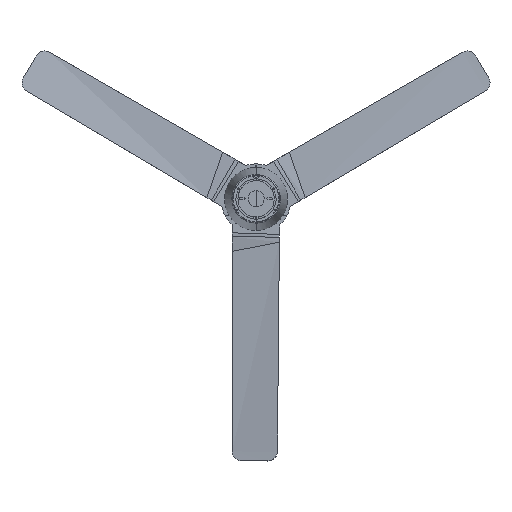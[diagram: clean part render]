
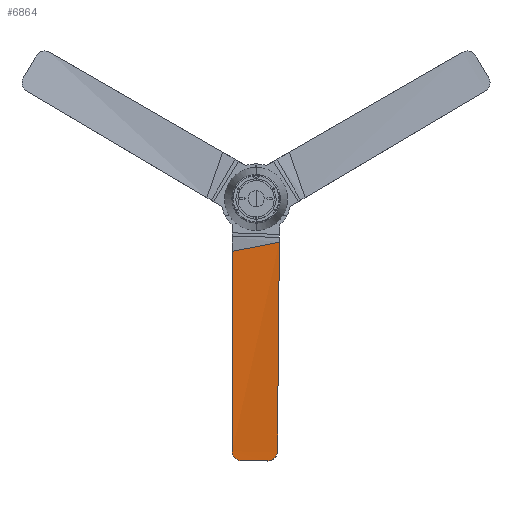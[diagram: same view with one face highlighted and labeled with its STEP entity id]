
A CAD part, top view. The second image highlights one B-rep face of the part: STEP entity #6864.
In plain terms, the highlighted free-form (B-spline) face has degree [3, 1] with [6, 2] control points.
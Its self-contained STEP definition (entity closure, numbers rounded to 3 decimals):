
#239=B_SPLINE_SURFACE_WITH_KNOTS('',3,1,((#25375,#25376),(#25377,#25378),
(#25379,#25380),(#25381,#25382),(#25383,#25384),(#25385,#25386)),
 .UNSPECIFIED.,.F.,.F.,.F.,(4,1,1,4),(2,2),(0.,184.784,369.567,
542.804),(0.,119.831),.UNSPECIFIED.);
#6864=ADVANCED_FACE('',(#7750),#239,.T.);
#7750=FACE_OUTER_BOUND('',#8576,.T.);
#8576=EDGE_LOOP('',(#9664,#9665,#9666,#9667,#9668,#9669));
#9664=ORIENTED_EDGE('',*,*,#14078,.T.);
#9665=ORIENTED_EDGE('',*,*,#14097,.T.);
#9666=ORIENTED_EDGE('',*,*,#14079,.T.);
#9667=ORIENTED_EDGE('',*,*,#14085,.T.);
#9668=ORIENTED_EDGE('',*,*,#14080,.T.);
#9669=ORIENTED_EDGE('',*,*,#14096,.T.);
#14078=EDGE_CURVE('',#19340,#19341,#16296,.T.);
#14079=EDGE_CURVE('',#19342,#19343,#16297,.T.);
#14080=EDGE_CURVE('',#19344,#19345,#16298,.T.);
#14085=EDGE_CURVE('',#19343,#19344,#16303,.T.);
#14096=EDGE_CURVE('',#19345,#19340,#16314,.T.);
#14097=EDGE_CURVE('',#19341,#19342,#16315,.T.);
#16296=B_SPLINE_CURVE_WITH_KNOTS('',1,(#25767,#25768),.UNSPECIFIED.,.F.,
 .F.,(2,2),(0.,119.505),.UNSPECIFIED.);
#16297=B_SPLINE_CURVE_WITH_KNOTS('',3,(#25769,#25770,#25771,#25772,#25773,
#25774,#25775,#25776,#25777,#25778),.UNSPECIFIED.,.F.,.F.,(4,2,2,2,4),(0.,
9.898,19.216,28.878,38.429),
 .UNSPECIFIED.);
#16298=B_SPLINE_CURVE_WITH_KNOTS('',3,(#25779,#25780,#25781,#25782,#25783,
#25784,#25785,#25786,#25787,#25788),.UNSPECIFIED.,.F.,.F.,(4,2,2,2,4),(0.,
9.02,18.45,27.437,36.898),
 .UNSPECIFIED.);
#16303=B_SPLINE_CURVE_WITH_KNOTS('',3,(#25801,#25802,#25803,#25804,#25805,
#25806),.UNSPECIFIED.,.F.,.F.,(4,2,4),(-63.426,-31.713,
0.),.UNSPECIFIED.);
#16314=B_SPLINE_CURVE_WITH_KNOTS('',3,(#25851,#25852,#25853,#25854,#25855,
#25856),.UNSPECIFIED.,.F.,.F.,(4,2,4),(-520.938,-260.467,
0.),.UNSPECIFIED.);
#16315=B_SPLINE_CURVE_WITH_KNOTS('',3,(#25857,#25858,#25859,#25860,#25861,
#25862,#25863,#25864,#25865,#25866,#25867,#25868,#25869,#25870,#25871,#25872,
#25873,#25874,#25875),.UNSPECIFIED.,.F.,.F.,(4,3,3,3,3,3,4),(-496.831,
-423.855,-344.474,-248.417,-162.294,
-74.188,0.),.UNSPECIFIED.);
#19340=VERTEX_POINT('',#25704);
#19341=VERTEX_POINT('',#25705);
#19342=VERTEX_POINT('',#25706);
#19343=VERTEX_POINT('',#25707);
#19344=VERTEX_POINT('',#25708);
#19345=VERTEX_POINT('',#25709);
#25375=CARTESIAN_POINT('',(9450.427,-2188.119,60.021));
#25376=CARTESIAN_POINT('',(9567.971,-2165.439,65.367));
#25377=CARTESIAN_POINT('',(9450.427,-2247.102,55.29));
#25378=CARTESIAN_POINT('',(9567.971,-2227.016,64.498));
#25379=CARTESIAN_POINT('',(9450.427,-2365.282,48.277));
#25380=CARTESIAN_POINT('',(9567.971,-2350.193,63.552));
#25381=CARTESIAN_POINT('',(9450.427,-2539.166,45.194));
#25382=CARTESIAN_POINT('',(9567.971,-2531.134,64.488));
#25383=CARTESIAN_POINT('',(9450.427,-2653.847,47.776));
#25384=CARTESIAN_POINT('',(9567.971,-2650.465,66.592));
#25385=CARTESIAN_POINT('',(9450.427,-2709.29,50.105));
#25386=CARTESIAN_POINT('',(9567.971,-2708.196,67.958));
#25704=CARTESIAN_POINT('',(9567.971,-2165.439,65.367));
#25705=CARTESIAN_POINT('',(9450.747,-2188.057,60.036));
#25706=CARTESIAN_POINT('',(9450.693,-2684.48,49.176));
#25707=CARTESIAN_POINT('',(9475.494,-2708.195,53.879));
#25708=CARTESIAN_POINT('',(9538.195,-2708.465,63.435));
#25709=CARTESIAN_POINT('',(9563.031,-2686.317,66.691));
#25767=CARTESIAN_POINT('',(9567.971,-2165.439,65.367));
#25768=CARTESIAN_POINT('',(9450.747,-2188.057,60.036));
#25769=CARTESIAN_POINT('',(9450.693,-2684.48,49.176));
#25770=CARTESIAN_POINT('',(9450.866,-2687.762,49.322));
#25771=CARTESIAN_POINT('',(9451.669,-2690.975,49.567));
#25772=CARTESIAN_POINT('',(9454.369,-2696.728,50.203));
#25773=CARTESIAN_POINT('',(9456.176,-2699.247,50.579));
#25774=CARTESIAN_POINT('',(9460.688,-2703.57,51.44));
#25775=CARTESIAN_POINT('',(9463.383,-2705.303,51.92));
#25776=CARTESIAN_POINT('',(9469.247,-2707.629,52.906));
#25777=CARTESIAN_POINT('',(9472.356,-2708.214,53.402));
#25778=CARTESIAN_POINT('',(9475.494,-2708.195,53.879));
#25779=CARTESIAN_POINT('',(9538.195,-2708.465,63.435));
#25780=CARTESIAN_POINT('',(9541.158,-2708.515,63.887));
#25781=CARTESIAN_POINT('',(9544.107,-2708.02,64.322));
#25782=CARTESIAN_POINT('',(9549.818,-2705.938,65.136));
#25783=CARTESIAN_POINT('',(9552.511,-2704.323,65.505));
#25784=CARTESIAN_POINT('',(9557.055,-2700.265,66.098));
#25785=CARTESIAN_POINT('',(9558.902,-2697.897,66.324));
#25786=CARTESIAN_POINT('',(9561.753,-2692.477,66.634));
#25787=CARTESIAN_POINT('',(9562.683,-2689.443,66.708));
#25788=CARTESIAN_POINT('',(9563.031,-2686.317,66.691));
#25801=CARTESIAN_POINT('',(9475.494,-2708.195,53.879));
#25802=CARTESIAN_POINT('',(9485.944,-2708.24,55.473));
#25803=CARTESIAN_POINT('',(9496.394,-2708.285,57.067));
#25804=CARTESIAN_POINT('',(9517.294,-2708.375,60.252));
#25805=CARTESIAN_POINT('',(9527.745,-2708.42,61.844));
#25806=CARTESIAN_POINT('',(9538.195,-2708.465,63.435));
#25851=CARTESIAN_POINT('',(9563.031,-2686.317,66.691));
#25852=CARTESIAN_POINT('',(9563.854,-2599.52,64.845));
#25853=CARTESIAN_POINT('',(9564.678,-2512.704,63.885));
#25854=CARTESIAN_POINT('',(9566.324,-2339.067,63.516));
#25855=CARTESIAN_POINT('',(9567.147,-2252.242,64.107));
#25856=CARTESIAN_POINT('',(9567.971,-2165.439,65.367));
#25857=CARTESIAN_POINT('',(9450.747,-2188.057,60.036));
#25858=CARTESIAN_POINT('',(9450.687,-2212.312,58.093));
#25859=CARTESIAN_POINT('',(9450.635,-2236.574,56.355));
#25860=CARTESIAN_POINT('',(9450.592,-2260.844,54.824));
#25861=CARTESIAN_POINT('',(9450.546,-2287.254,53.157));
#25862=CARTESIAN_POINT('',(9450.509,-2313.674,51.735));
#25863=CARTESIAN_POINT('',(9450.482,-2340.108,50.558));
#25864=CARTESIAN_POINT('',(9450.449,-2372.085,49.134));
#25865=CARTESIAN_POINT('',(9450.431,-2404.083,48.07));
#25866=CARTESIAN_POINT('',(9450.428,-2436.109,47.367));
#25867=CARTESIAN_POINT('',(9450.424,-2464.822,46.736));
#25868=CARTESIAN_POINT('',(9450.433,-2493.525,46.397));
#25869=CARTESIAN_POINT('',(9450.453,-2522.223,46.349));
#25870=CARTESIAN_POINT('',(9450.474,-2551.593,46.3));
#25871=CARTESIAN_POINT('',(9450.507,-2580.957,46.556));
#25872=CARTESIAN_POINT('',(9450.553,-2610.323,47.116));
#25873=CARTESIAN_POINT('',(9450.591,-2635.04,47.587));
#25874=CARTESIAN_POINT('',(9450.638,-2659.758,48.274));
#25875=CARTESIAN_POINT('',(9450.693,-2684.48,49.176));
